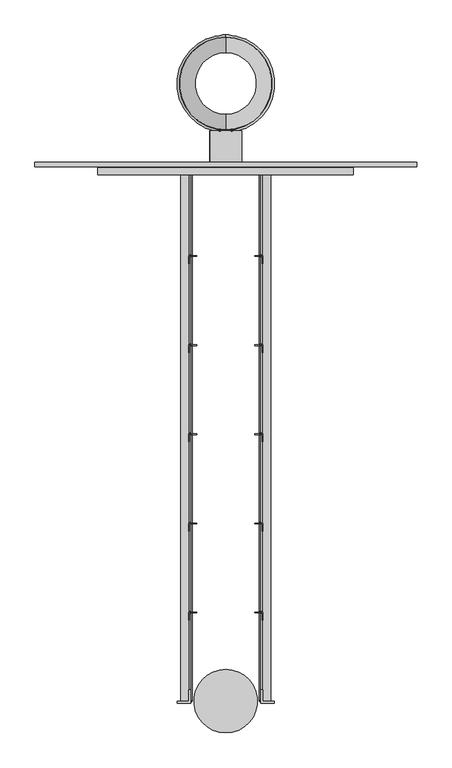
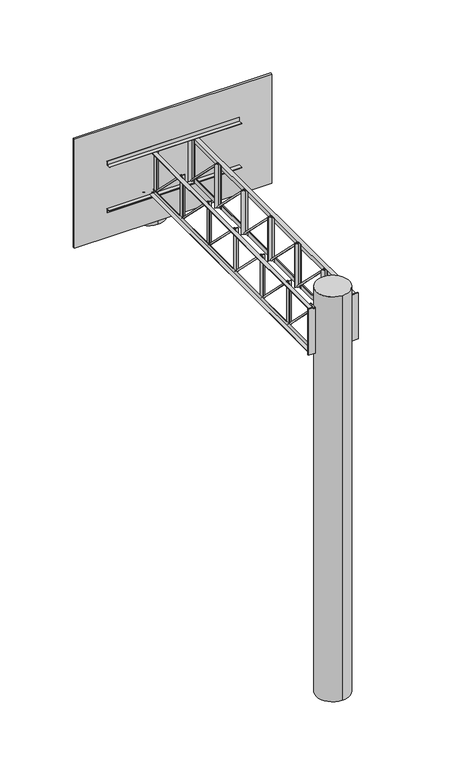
"""IFC4 building model written with IfcOpenShell, lengths in millimetres: proxy geometry, FDE_QE39_QE40_TabelaDeBasquete : QE39_LajeAlveolar."""

from ifc_helpers import new_model, si_unit, point, frame, frame_2d, origin, origin_2d, place, context, project, spatial, polyline, circle_curve, ellipse_curve, trimmed, segment, composite_curve, outline, extrude, source, transform, mapped, element, save
from ifc_brep_helpers import plane_surface, revolved_surface, advanced_brep


def specialty_equipment_ced57a1c(model_context):
    return source(origin(), model_context, "Body", "SolidModel", [
        extrude(outline(polyline([(2482.0, 3180.0), (2520.0, 3180.0), (2520.0, 3142.0), (2516.8, 3142.0), (2516.8, 3176.8), (2482.0, 3176.8), (2482.0, 3180.0)])), frame((-602.5, 0.0, 0.0), z_axis=(1.0, 0.0, 0.0), x_axis=(0.0, 1.0, 0.0)), (0.0, 0.0, 1.0), 1205.0),
        extrude(outline(polyline([(2482.0, 3600.0), (2482.0, 3603.2), (2516.8, 3603.2), (2516.8, 3638.0), (2520.0, 3638.0), (2520.0, 3600.0), (2482.0, 3600.0)])), frame((-602.5, 0.0, 0.0), z_axis=(1.0, 0.0, 0.0), x_axis=(0.0, 1.0, 0.0)), (0.0, 0.0, 1.0), 1205.0),
        extrude(outline(polyline([(-137.0, 2520.0), (-137.0, 2516.8), (-171.8, 2516.8), (-171.8, 2482.0), (-175.0, 2482.0), (-175.0, 2520.0), (-137.0, 2520.0)])), frame((0.0, 0.0, 3180.0), z_axis=(0.0, 0.0, 1.0), x_axis=(1.0, 0.0, 0.0)), (0.0, 0.0, 1.0), 420.0),
        extrude(outline(polyline([(137.0, 2520.0), (175.0, 2520.0), (175.0, 2482.0), (171.8, 2482.0), (171.8, 2516.8), (137.0, 2516.8), (137.0, 2520.0)])), frame((0.0, 0.0, 3180.0), z_axis=(0.0, 0.0, 1.0), x_axis=(1.0, 0.0, 0.0)), (0.0, 0.0, 1.0), 420.0),
        extrude(outline(polyline([(-137.0, 2100.0), (-137.0, 2096.8), (-171.8, 2096.8), (-171.8, 2062.0), (-175.0, 2062.0), (-175.0, 2100.0), (-137.0, 2100.0)])), frame((0.0, 0.0, 3180.0), z_axis=(0.0, 0.0, 1.0), x_axis=(1.0, 0.0, 0.0)), (0.0, 0.0, 1.0), 420.0),
        extrude(outline(polyline([(137.0, 2100.0), (175.0, 2100.0), (175.0, 2062.0), (171.8, 2062.0), (171.8, 2096.8), (137.0, 2096.8), (137.0, 2100.0)])), frame((0.0, 0.0, 3180.0), z_axis=(0.0, 0.0, 1.0), x_axis=(1.0, 0.0, 0.0)), (0.0, 0.0, 1.0), 420.0),
        extrude(outline(polyline([(-137.0, 1680.0), (-137.0, 1676.8), (-171.8, 1676.8), (-171.8, 1642.0), (-175.0, 1642.0), (-175.0, 1680.0), (-137.0, 1680.0)])), frame((0.0, 0.0, 3180.0), z_axis=(0.0, 0.0, 1.0), x_axis=(1.0, 0.0, 0.0)), (0.0, 0.0, 1.0), 420.0),
        extrude(outline(polyline([(137.0, 1680.0), (175.0, 1680.0), (175.0, 1642.0), (171.8, 1642.0), (171.8, 1676.8), (137.0, 1676.8), (137.0, 1680.0)])), frame((0.0, 0.0, 3180.0), z_axis=(0.0, 0.0, 1.0), x_axis=(1.0, 0.0, 0.0)), (0.0, 0.0, 1.0), 420.0),
        extrude(outline(polyline([(-137.0, 1260.0), (-137.0, 1256.8), (-171.8, 1256.8), (-171.8, 1222.0), (-175.0, 1222.0), (-175.0, 1260.0), (-137.0, 1260.0)])), frame((0.0, 0.0, 3180.0), z_axis=(0.0, 0.0, 1.0), x_axis=(1.0, 0.0, 0.0)), (0.0, 0.0, 1.0), 420.0),
        extrude(outline(polyline([(137.0, 1260.0), (175.0, 1260.0), (175.0, 1222.0), (171.8, 1222.0), (171.8, 1256.8), (137.0, 1256.8), (137.0, 1260.0)])), frame((0.0, 0.0, 3180.0), z_axis=(0.0, 0.0, 1.0), x_axis=(1.0, 0.0, 0.0)), (0.0, 0.0, 1.0), 420.0),
        extrude(outline(polyline([(-137.0, 840.0), (-137.0, 836.8), (-171.8, 836.8), (-171.8, 802.0), (-175.0, 802.0), (-175.0, 840.0), (-137.0, 840.0)])), frame((0.0, 0.0, 3180.0), z_axis=(0.0, 0.0, 1.0), x_axis=(1.0, 0.0, 0.0)), (0.0, 0.0, 1.0), 420.0),
        extrude(outline(polyline([(137.0, 840.0), (175.0, 840.0), (175.0, 802.0), (171.8, 802.0), (171.8, 836.8), (137.0, 836.8), (137.0, 840.0)])), frame((0.0, 0.0, 3180.0), z_axis=(0.0, 0.0, 1.0), x_axis=(1.0, 0.0, 0.0)), (0.0, 0.0, 1.0), 420.0),
        extrude(outline(polyline([(-137.0, 420.0), (-137.0, 416.8), (-171.8, 416.8), (-171.8, 382.0), (-175.0, 382.0), (-175.0, 420.0), (-137.0, 420.0)])), frame((0.0, 0.0, 3180.0), z_axis=(0.0, 0.0, 1.0), x_axis=(1.0, 0.0, 0.0)), (0.0, 0.0, 1.0), 420.0),
        extrude(outline(polyline([(137.0, 420.0), (175.0, 420.0), (175.0, 382.0), (171.8, 382.0), (171.8, 416.8), (137.0, 416.8), (137.0, 420.0)])), frame((0.0, 0.0, 3180.0), z_axis=(0.0, 0.0, 1.0), x_axis=(1.0, 0.0, 0.0)), (0.0, 0.0, 1.0), 420.0),
        extrude(outline(polyline([(-229.5, -9.5), (-229.5, 0.0), (-175.0, 0.0), (-175.0, 54.5), (-165.5, 54.5), (-165.5, -9.5), (-229.5, -9.5)])), frame((0.0, 0.0, 3169.0), z_axis=(0.0, 0.0, 1.0), x_axis=(1.0, 0.0, 0.0)), (0.0, 0.0, 1.0), 442.0),
        extrude(outline(polyline([(229.5, -9.5), (165.5, -9.5), (165.5, 54.5), (175.0, 54.5), (175.0, 0.0), (229.5, 0.0), (229.5, -9.5)])), frame((0.0, 0.0, 3169.0), z_axis=(0.0, 0.0, 1.0), x_axis=(1.0, 0.0, 0.0)), (0.0, 0.0, 1.0), 442.0),
        extrude(outline(polyline([(3562.0, -175.0), (3600.0, -175.0), (3600.0, -213.0), (3596.8, -213.0), (3596.8, -178.2), (3562.0, -178.2), (3562.0, -175.0)])), frame((0.0, 0.0, 0.0), z_axis=(0.0, 1.0, 0.0), x_axis=(0.0, 0.0, 1.0)), (0.0, 0.0, 1.0), 2520.0),
        extrude(outline(polyline([(3562.0, 175.0), (3562.0, 178.2), (3596.8, 178.2), (3596.8, 213.0), (3600.0, 213.0), (3600.0, 175.0), (3562.0, 175.0)])), frame((0.0, 0.0, 0.0), z_axis=(0.0, 1.0, 0.0), x_axis=(0.0, 0.0, 1.0)), (0.0, 0.0, 1.0), 2520.0),
        extrude(outline(polyline([(3218.0, -175.0), (3218.0, -178.2), (3183.2, -178.2), (3183.2, -213.0), (3180.0, -213.0), (3180.0, -175.0), (3218.0, -175.0)])), frame((0.0, 0.0, 0.0), z_axis=(0.0, 1.0, 0.0), x_axis=(0.0, 0.0, 1.0)), (0.0, 0.0, 1.0), 2520.0),
        extrude(outline(polyline([(3218.0, 175.0), (3180.0, 175.0), (3180.0, 213.0), (3183.2, 213.0), (3183.2, 178.2), (3218.0, 178.2), (3218.0, 175.0)])), frame((0.0, 0.0, 0.0), z_axis=(0.0, 1.0, 0.0), x_axis=(0.0, 0.0, 1.0)), (0.0, 0.0, 1.0), 2520.0),
        extrude(outline(composite_curve([segment(trimmed(circle_curve(origin_2d(), 150.0), [point((0.0, -150.0))], [point((0.0, 150.0))], False, "CARTESIAN"), True, "CONTINUOUS"), segment(trimmed(circle_curve(origin_2d(), 150.0), [point((0.0, 150.0))], [point((0.0, -150.0))], False, "CARTESIAN"), True, "CONTINUOUS")], self_intersect=False)), frame((0.0, 0.0, -150.0), z_axis=(0.0, 0.0, 1.0), x_axis=(1.0, 0.0, 0.0)), (0.0, 0.0, 1.0), 3900.0),
        extrude(outline(polyline([(-73.9310412, 2540.0), (-73.9310412, 2690.0), (75.2, 2690.0), (75.2, 2540.0), (-73.9310412, 2540.0)])), frame((0.0, 0.0, 3050.0), z_axis=(0.0, 0.0, 1.0), x_axis=(1.0, 0.0, 0.0)), (0.0, 0.0, 1.0), 18.0),
        extrude(outline(polyline([(2540.0, 3050.0), (2690.0, 3050.0), (2540.0, 2900.0), (2540.0, 3050.0)])), frame((-74.8, 0.0, 0.0), z_axis=(1.0, 0.0, 0.0), x_axis=(0.0, 1.0, 0.0)), (0.0, 0.0, 1.0), 2.0),
        extrude(outline(polyline([(2540.0, 3050.0), (2690.0, 3050.0), (2540.0, 2900.0), (2540.0, 3050.0)])), frame((72.2, 0.0, 0.0), z_axis=(1.0, 0.0, 0.0), x_axis=(0.0, 1.0, 0.0)), (0.0, 0.0, 1.0), 3.0),
        advanced_brep(
        [(0.2716802, 3141.5314, 3044.3298092), (0.2716802, 3131.5314, 3044.3298092), (0.2716802, 2691.5314, 3044.3298092), (0.2716802, 2681.5314, 3044.3298092)],
        [
            (0, 1, circle_curve(frame((0.2716802, 3136.5314, 3044.3298092), z_axis=(1.0, 0.0, 0.0), x_axis=(0.0, 1.0, 0.0)), 5.0)),
            (1, 2, circle_curve(frame((0.2716802, 2911.5314, 3044.3298092), z_axis=(0.0, 0.0, -1.0), x_axis=(0.0, -1.0, 0.0)), 220.0)),
            (2, 3, circle_curve(frame((0.2716802, 2686.5314, 3044.3298092), z_axis=(1.0, 0.0, 0.0), x_axis=(0.0, -1.0, 0.0)), 5.0)),
            (3, 0, circle_curve(frame((0.2716802, 2911.5314, 3044.3298092), z_axis=(0.0, 0.0, 1.0), x_axis=(0.0, -1.0, 0.0)), 230.0)),
            (1, 0, circle_curve(frame((0.2716802, 3136.5314, 3044.3298092), z_axis=(1.0, 0.0, 0.0), x_axis=(0.0, 1.0, 0.0)), 5.0)),
            (3, 2, circle_curve(frame((0.2716802, 2686.5314, 3044.3298092), z_axis=(1.0, 0.0, 0.0), x_axis=(0.0, -1.0, 0.0)), 5.0)),
            (2, 1, circle_curve(frame((0.2716802, 2911.5314, 3044.3298092), z_axis=(0.0, 0.0, -1.0), x_axis=(0.0, 1.0, 0.0)), 220.0)),
            (0, 3, circle_curve(frame((0.2716802, 2911.5314, 3044.3298092), z_axis=(0.0, 0.0, 1.0), x_axis=(0.0, 1.0, 0.0)), 230.0)),
        ],
        [
            revolved_surface(trimmed(ellipse_curve(frame((0.2716802, 2686.5314, 3044.3298092), z_axis=(1.0, 0.0, 0.0), x_axis=(0.0, -1.0, 0.0)), 5.0, 5.0), [point((0.2716802, 2691.5314, 3044.3298092))], [point((0.2716802, 2681.5314, 3044.3298092))], True, "CARTESIAN"), (0.2716802, 2911.5314, 3210.3899891), (0.0, 0.0, -1.0)),
            revolved_surface(trimmed(ellipse_curve(frame((0.2716802, 2686.5314, 3044.3298092), z_axis=(1.0, 0.0, 0.0), x_axis=(0.0, -1.0, 0.0)), 5.0, 5.0), [point((0.2716802, 2681.5314, 3044.3298092))], [point((0.2716802, 2691.5314, 3044.3298092))], True, "CARTESIAN"), (0.2716802, 2911.5314, 3210.3899891), (0.0, 0.0, -1.0)),
            revolved_surface(trimmed(ellipse_curve(frame((0.2716802, 3136.5314, 3044.3298092), z_axis=(-1.0, 0.0, 0.0), x_axis=(0.0, 1.0, 0.0)), 5.0, 5.0), [point((0.2716802, 3131.5314, 3044.3298092))], [point((0.2716802, 3141.5314, 3044.3298092))], True, "CARTESIAN"), (0.2716802, 2911.5314, 3210.3899891), (0.0, 0.0, -1.0)),
            revolved_surface(trimmed(ellipse_curve(frame((0.2716802, 3136.5314, 3044.3298092), z_axis=(-1.0, 0.0, 0.0), x_axis=(0.0, 1.0, 0.0)), 5.0, 5.0), [point((0.2716802, 3141.5314, 3044.3298092))], [point((0.2716802, 3131.5314, 3044.3298092))], True, "CARTESIAN"), (0.2716802, 2911.5314, 3210.3899891), (0.0, 0.0, -1.0)),
        ],
        [
            (0, [[1, 2, 3, 4]]),
            (1, [[5, -4, 6, -2]]),
            (2, [[-3, 7, -1, 8]]),
            (3, [[-6, -8, -5, -7]]),
        ],
    ),
        extrude(outline(polyline([(900.2, 2520.0), (-899.8, 2520.0), (-899.8, 2540.0), (900.2, 2540.0), (900.2, 2520.0)])), frame((0.0, 0.0, 2900.0), z_axis=(0.0, 0.0, 1.0), x_axis=(1.0, 0.0, 0.0)), (0.0, 0.0, 1.0), 1050.0),
        advanced_brep(
        [(0.2, 2762.2875334, 2668.6700903), (0.2, 2688.3632113, 3043.6700903), (0.2, 3136.2118556, 3043.6700903), (0.2, 3062.2875334, 2668.6700903), (0.2, 2767.2876942, 2668.6700903), (0.2, 3057.2873727, 2668.6700903), (0.2, 2693.7830904, 3043.6700903), (0.2, 3130.7919765, 3043.6700903)],
        [
            (0, 1, circle_curve(frame((0.2, 1812.9028558, 2676.3028476), z_axis=(1.0, 0.0, 0.0), x_axis=(0.0, 0.0, 1.0)), 949.4153596)),
            (1, 2, circle_curve(frame((0.2, 2912.2875334, 3043.6700903), z_axis=(0.0, 0.0, -1.0), x_axis=(0.0, 1.0, 0.0)), 223.9243221)),
            (2, 3, circle_curve(frame((0.2, 4011.672211, 2676.3028476), z_axis=(1.0, 0.0, 0.0), x_axis=(0.0, 0.0, 1.0)), 949.4153596)),
            (3, 0, circle_curve(frame((0.2, 2912.2875334, 2668.6700903), z_axis=(0.0, 0.0, 1.0), x_axis=(0.0, 1.0, 0.0)), 150.0)),
            (2, 1, circle_curve(frame((0.2, 2912.2875334, 3043.6700903), z_axis=(0.0, 0.0, -1.0), x_axis=(0.0, 1.0, 0.0)), 223.9243221)),
            (0, 3, circle_curve(frame((0.2, 2912.2875334, 2668.6700903), z_axis=(0.0, 0.0, 1.0), x_axis=(0.0, 1.0, 0.0)), 150.0)),
            (4, 0),
            (3, 5),
            (5, 4, circle_curve(frame((0.2, 2912.2875334, 2668.6700903), z_axis=(0.0, 0.0, 1.0), x_axis=(0.0, 1.0, 0.0)), 144.9998393)),
            (4, 5, circle_curve(frame((0.2, 2912.2875334, 2668.6700903), z_axis=(0.0, 0.0, 1.0), x_axis=(0.0, 1.0, 0.0)), 144.9998393)),
            (6, 4, circle_curve(frame((0.2, 1812.9028558, 2676.3028476), z_axis=(-1.0, 0.0, 0.0), x_axis=(0.0, 0.0, 1.0)), 954.4153596)),
            (5, 7, circle_curve(frame((0.2, 4011.672211, 2676.3028476), z_axis=(-1.0, 0.0, 0.0), x_axis=(0.0, 0.0, 1.0)), 954.4153596)),
            (7, 6, circle_curve(frame((0.2, 2912.2875334, 3043.6700903), z_axis=(0.0, 0.0, 1.0), x_axis=(0.0, 1.0, 0.0)), 218.5044431)),
            (6, 7, circle_curve(frame((0.2, 2912.2875334, 3043.6700903), z_axis=(0.0, 0.0, 1.0), x_axis=(0.0, 1.0, 0.0)), 218.5044431)),
            (1, 6),
            (7, 2),
        ],
        [
            revolved_surface(trimmed(ellipse_curve(frame((0.2, 4011.672211, 2676.3028476), z_axis=(1.0, 0.0, 0.0), x_axis=(0.0, 0.0, 1.0)), 949.4153596, 949.4153596), [point((0.2, 3136.2118556, 3043.6700903))], [point((0.2, 3062.2875334, 2668.6700903))], True, "CARTESIAN"), (0.2, 2912.2875334, 3043.6700903), (0.0, 0.0, -1.0)),
            plane_surface(frame((0.2, 2912.2875334, 2668.6700903), z_axis=(0.0, 0.0, -1.0), x_axis=(0.0, 1.0, 0.0))),
            revolved_surface(trimmed(ellipse_curve(frame((0.2, 4011.672211, 2676.3028476), z_axis=(-1.0, 0.0, 0.0), x_axis=(0.0, 0.0, 1.0)), 954.4153596, 954.4153596), [point((0.2, 3057.2873727, 2668.6700903))], [point((0.2, 3130.7919765, 3043.6700903))], True, "CARTESIAN"), (0.2, 2912.2875334, 3043.6700903), (0.0, 0.0, -1.0)),
            plane_surface(frame((0.2, 2912.2875334, 3043.6700903), z_axis=(0.0, 0.0, 1.0), x_axis=(0.0, 1.0, 0.0))),
        ],
        [
            (0, [[1, 2, 3, 4]]),
            (0, [[-3, 5, -1, 6]]),
            (1, [[7, -4, 8, 9]]),
            (1, [[-8, -6, -7, 10]]),
            (2, [[11, -9, 12, 13]]),
            (2, [[-12, -10, -11, 14]]),
            (3, [[15, -13, 16, -2]]),
            (3, [[-16, -14, -15, -5]]),
        ],
    ),
        extrude(outline(composite_curve([segment(trimmed(circle_curve(frame_2d((-9.7, 0.0)), 6.5), [point((-9.7, 6.5))], [point((-9.7, -6.5))], False, "CARTESIAN"), True, "CONTINUOUS"), segment(trimmed(circle_curve(frame_2d((-9.7, 0.0)), 6.5), [point((-9.7, -6.5))], [point((-9.7, 6.5))], False, "CARTESIAN"), True, "CONTINUOUS")], self_intersect=False)), frame((-175.0, 2520.0, 3180.0), z_axis=(0.0, -0.707106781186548, 0.707106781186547), x_axis=(-1.0, 0.0, 0.0)), (0.0, 0.0, 1.0), 593.9696962),
        extrude(outline(composite_curve([segment(trimmed(circle_curve(frame_2d((-9.7, 0.0)), 6.5), [point((-9.7, -6.5))], [point((-9.7, 6.5))], False, "CARTESIAN"), True, "CONTINUOUS"), segment(trimmed(circle_curve(frame_2d((-9.7, 0.0)), 6.5), [point((-9.7, 6.5))], [point((-9.7, -6.5))], False, "CARTESIAN"), True, "CONTINUOUS")], self_intersect=False)), frame((175.0, 2520.0, 3180.0), z_axis=(0.0, -0.707106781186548, 0.707106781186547), x_axis=(1.0, 0.0, 0.0)), (0.0, 0.0, 1.0), 593.9696962),
        extrude(outline(composite_curve([segment(trimmed(circle_curve(frame_2d((-9.7, 0.0)), 6.5), [point((-9.7, 6.5))], [point((-9.7, -6.5))], False, "CARTESIAN"), True, "CONTINUOUS"), segment(trimmed(circle_curve(frame_2d((-9.7, 0.0)), 6.5), [point((-9.7, -6.5))], [point((-9.7, 6.5))], False, "CARTESIAN"), True, "CONTINUOUS")], self_intersect=False)), frame((-175.0, 2100.0, 3180.0), z_axis=(0.0, -0.707106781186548, 0.707106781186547), x_axis=(-1.0, 0.0, 0.0)), (0.0, 0.0, 1.0), 593.9696962),
        extrude(outline(composite_curve([segment(trimmed(circle_curve(frame_2d((-9.7, 0.0)), 6.5), [point((-9.7, -6.5))], [point((-9.7, 6.5))], False, "CARTESIAN"), True, "CONTINUOUS"), segment(trimmed(circle_curve(frame_2d((-9.7, 0.0)), 6.5), [point((-9.7, 6.5))], [point((-9.7, -6.5))], False, "CARTESIAN"), True, "CONTINUOUS")], self_intersect=False)), frame((175.0, 2100.0, 3180.0), z_axis=(0.0, -0.707106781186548, 0.707106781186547), x_axis=(1.0, 0.0, 0.0)), (0.0, 0.0, 1.0), 593.9696962),
        extrude(outline(composite_curve([segment(trimmed(circle_curve(frame_2d((-9.7, 0.0)), 6.5), [point((-9.7, 6.5))], [point((-9.7, -6.5))], False, "CARTESIAN"), True, "CONTINUOUS"), segment(trimmed(circle_curve(frame_2d((-9.7, 0.0)), 6.5), [point((-9.7, -6.5))], [point((-9.7, 6.5))], False, "CARTESIAN"), True, "CONTINUOUS")], self_intersect=False)), frame((-175.0, 1680.0, 3180.0), z_axis=(0.0, -0.707106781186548, 0.707106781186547), x_axis=(-1.0, 0.0, 0.0)), (0.0, 0.0, 1.0), 593.9696962),
        extrude(outline(composite_curve([segment(trimmed(circle_curve(frame_2d((-9.7, 0.0)), 6.5), [point((-9.7, -6.5))], [point((-9.7, 6.5))], False, "CARTESIAN"), True, "CONTINUOUS"), segment(trimmed(circle_curve(frame_2d((-9.7, 0.0)), 6.5), [point((-9.7, 6.5))], [point((-9.7, -6.5))], False, "CARTESIAN"), True, "CONTINUOUS")], self_intersect=False)), frame((175.0, 1680.0, 3180.0), z_axis=(0.0, -0.707106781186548, 0.707106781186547), x_axis=(1.0, 0.0, 0.0)), (0.0, 0.0, 1.0), 593.9696962),
        extrude(outline(composite_curve([segment(trimmed(circle_curve(frame_2d((-9.7, 0.0)), 6.5), [point((-9.7, 6.5))], [point((-9.7, -6.5))], False, "CARTESIAN"), True, "CONTINUOUS"), segment(trimmed(circle_curve(frame_2d((-9.7, 0.0)), 6.5), [point((-9.7, -6.5))], [point((-9.7, 6.5))], False, "CARTESIAN"), True, "CONTINUOUS")], self_intersect=False)), frame((-175.0, 1260.0, 3180.0), z_axis=(0.0, -0.707106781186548, 0.707106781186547), x_axis=(-1.0, 0.0, 0.0)), (0.0, 0.0, 1.0), 593.9696962),
        extrude(outline(composite_curve([segment(trimmed(circle_curve(frame_2d((-9.7, 0.0)), 6.5), [point((-9.7, -6.5))], [point((-9.7, 6.5))], False, "CARTESIAN"), True, "CONTINUOUS"), segment(trimmed(circle_curve(frame_2d((-9.7, 0.0)), 6.5), [point((-9.7, 6.5))], [point((-9.7, -6.5))], False, "CARTESIAN"), True, "CONTINUOUS")], self_intersect=False)), frame((175.0, 1260.0, 3180.0), z_axis=(0.0, -0.707106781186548, 0.707106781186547), x_axis=(1.0, 0.0, 0.0)), (0.0, 0.0, 1.0), 593.9696962),
        extrude(outline(composite_curve([segment(trimmed(circle_curve(frame_2d((-9.7, 0.0)), 6.5), [point((-9.7, 6.5))], [point((-9.7, -6.5))], False, "CARTESIAN"), True, "CONTINUOUS"), segment(trimmed(circle_curve(frame_2d((-9.7, 0.0)), 6.5), [point((-9.7, -6.5))], [point((-9.7, 6.5))], False, "CARTESIAN"), True, "CONTINUOUS")], self_intersect=False)), frame((-175.0, 840.0, 3180.0), z_axis=(0.0, -0.707106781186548, 0.707106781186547), x_axis=(-1.0, 0.0, 0.0)), (0.0, 0.0, 1.0), 593.9696962),
        extrude(outline(composite_curve([segment(trimmed(circle_curve(frame_2d((-9.7, 0.0)), 6.5), [point((-9.7, -6.5))], [point((-9.7, 6.5))], False, "CARTESIAN"), True, "CONTINUOUS"), segment(trimmed(circle_curve(frame_2d((-9.7, 0.0)), 6.5), [point((-9.7, 6.5))], [point((-9.7, -6.5))], False, "CARTESIAN"), True, "CONTINUOUS")], self_intersect=False)), frame((175.0, 840.0, 3180.0), z_axis=(0.0, -0.707106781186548, 0.707106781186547), x_axis=(1.0, 0.0, 0.0)), (0.0, 0.0, 1.0), 593.9696962),
        extrude(outline(composite_curve([segment(trimmed(circle_curve(frame_2d((-9.7, 0.0)), 6.5), [point((-9.7, 6.5))], [point((-9.7, -6.5))], False, "CARTESIAN"), True, "CONTINUOUS"), segment(trimmed(circle_curve(frame_2d((-9.7, 0.0)), 6.5), [point((-9.7, -6.5))], [point((-9.7, 6.5))], False, "CARTESIAN"), True, "CONTINUOUS")], self_intersect=False)), frame((-175.0, 420.0, 3180.0), z_axis=(0.0, -0.707106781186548, 0.707106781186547), x_axis=(-1.0, 0.0, 0.0)), (0.0, 0.0, 1.0), 593.9696962),
        extrude(outline(composite_curve([segment(trimmed(circle_curve(frame_2d((-9.7, 0.0)), 6.5), [point((-9.7, -6.5))], [point((-9.7, 6.5))], False, "CARTESIAN"), True, "CONTINUOUS"), segment(trimmed(circle_curve(frame_2d((-9.7, 0.0)), 6.5), [point((-9.7, 6.5))], [point((-9.7, -6.5))], False, "CARTESIAN"), True, "CONTINUOUS")], self_intersect=False)), frame((175.0, 420.0, 3180.0), z_axis=(0.0, -0.707106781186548, 0.707106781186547), x_axis=(1.0, 0.0, 0.0)), (0.0, 0.0, 1.0), 593.9696962),
    ])


if __name__ == "__main__":
    model = new_model("IFC4")
    model_context = context("Model", 3, world=origin())
    ifc_project = project(units=[si_unit("LENGTHUNIT", "METRE", prefix="MILLI")], contexts=[model_context])
    site = spatial("IfcSite", under=ifc_project)
    building = spatial("IfcBuilding", under=site)
    placement = place(None, origin())
    specialty_equipment_shape = specialty_equipment_ced57a1c(model_context)
    element("IfcBuildingElementProxy", 1, Name="FDE_QE39_QE40_TabelaDeBasquete : QE39_LajeAlveolar", ObjectType="FDE_QE39_QE40_TabelaDeBasquete : QE39_LajeAlveolar", at=placement, inside=building, context=model_context, shape_type="MappedRepresentation", body=[
        mapped(specialty_equipment_shape, transform((0.0, 0.0, 0.0), x_axis=(1.0, 0.0, 0.0), y_axis=(0.0, 1.0, 0.0), z_axis=(0.0, 0.0, 1.0))),
    ])
    save(model, "model.ifc")
